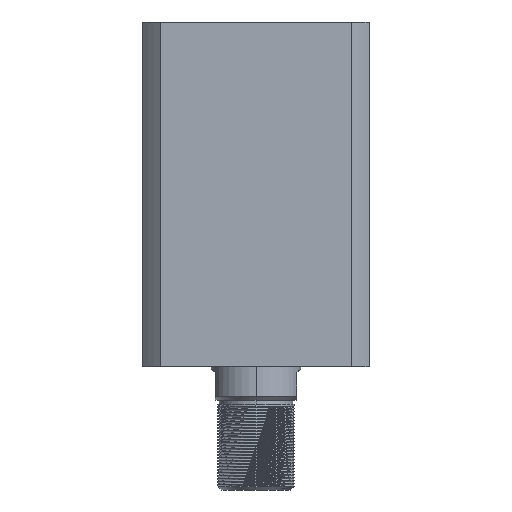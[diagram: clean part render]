
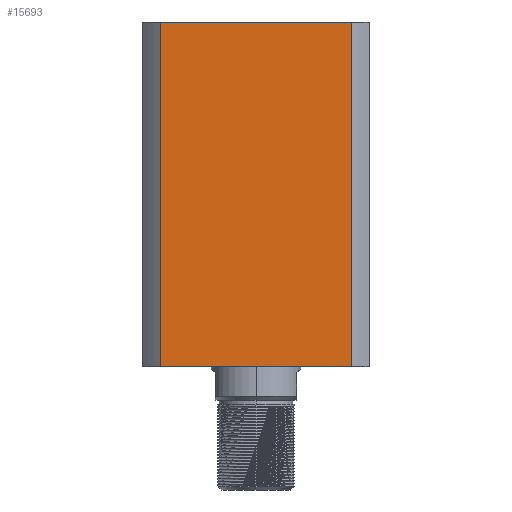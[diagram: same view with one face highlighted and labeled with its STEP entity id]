
A CAD part, front view. The second image highlights one B-rep face of the part: STEP entity #15693.
In plain terms, the highlighted planar face has unit normal (0, -1, 0) as drawn and (-1, 0, 0) by its records, which use the part's own axes.
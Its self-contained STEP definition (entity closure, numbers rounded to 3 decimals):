
#149 = AXIS2_PLACEMENT_3D ( 'NONE', #4943, #8133, #19184 ) ;
#975 = DIRECTION ( 'NONE',  ( 0., -1., 0. ) ) ;
#1776 = EDGE_CURVE ( 'NONE', #19421, #5501, #20297, .T. ) ;
#1814 = VERTEX_POINT ( 'NONE', #13611 ) ;
#2937 = LINE ( 'NONE', #19446, #15077 ) ;
#4943 = CARTESIAN_POINT ( 'NONE',  ( -57., 57., 173. ) ) ;
#5284 = VERTEX_POINT ( 'NONE', #5463 ) ;
#5463 = CARTESIAN_POINT ( 'NONE',  ( -57., -47.971, 0. ) ) ;
#5501 = VERTEX_POINT ( 'NONE', #9111 ) ;
#5914 = VECTOR ( 'NONE', #9644, 1000. ) ;
#7318 = CARTESIAN_POINT ( 'NONE',  ( -57., 47.971, -127. ) ) ;
#7707 = EDGE_LOOP ( 'NONE', ( #19660, #8929, #20039, #14834 ) ) ;
#7861 = VECTOR ( 'NONE', #19957, 1000. ) ;
#8133 = DIRECTION ( 'NONE',  ( 1., 0., 0. ) ) ;
#8270 = EDGE_CURVE ( 'NONE', #1814, #5284, #2937, .T. ) ;
#8356 = CARTESIAN_POINT ( 'NONE',  ( -57., 47.971, 173. ) ) ;
#8929 = ORIENTED_EDGE ( 'NONE', *, *, #8270, .T. ) ;
#9111 = CARTESIAN_POINT ( 'NONE',  ( -57., -47.971, 173. ) ) ;
#9173 = EDGE_CURVE ( 'NONE', #5501, #5284, #18534, .T. ) ;
#9644 = DIRECTION ( 'NONE',  ( 0., 0., -1. ) ) ;
#9918 = DIRECTION ( 'NONE',  ( 0., -1., 0. ) ) ;
#11171 = EDGE_CURVE ( 'NONE', #1814, #19421, #18745, .T. ) ;
#11302 = CARTESIAN_POINT ( 'NONE',  ( -57., -47.971, -127. ) ) ;
#12427 = FACE_OUTER_BOUND ( 'NONE', #7707, .T. ) ;
#13611 = CARTESIAN_POINT ( 'NONE',  ( -57., 47.971, 0. ) ) ;
#14834 = ORIENTED_EDGE ( 'NONE', *, *, #1776, .F. ) ;
#15077 = VECTOR ( 'NONE', #9918, 1000. ) ;
#15693 = ADVANCED_FACE ( 'NONE', ( #12427 ), #15947, .F. ) ;
#15947 = PLANE ( 'NONE',  #149 ) ;
#16090 = VECTOR ( 'NONE', #975, 1000. ) ;
#18534 = LINE ( 'NONE', #11302, #5914 ) ;
#18745 = LINE ( 'NONE', #7318, #7861 ) ;
#19184 = DIRECTION ( 'NONE',  ( 0., 1., 0. ) ) ;
#19421 = VERTEX_POINT ( 'NONE', #8356 ) ;
#19446 = CARTESIAN_POINT ( 'NONE',  ( -57., 57., 0. ) ) ;
#19660 = ORIENTED_EDGE ( 'NONE', *, *, #11171, .F. ) ;
#19898 = CARTESIAN_POINT ( 'NONE',  ( -57., 57., 173. ) ) ;
#19957 = DIRECTION ( 'NONE',  ( 0., 0., 1. ) ) ;
#20039 = ORIENTED_EDGE ( 'NONE', *, *, #9173, .F. ) ;
#20297 = LINE ( 'NONE', #19898, #16090 ) ;
